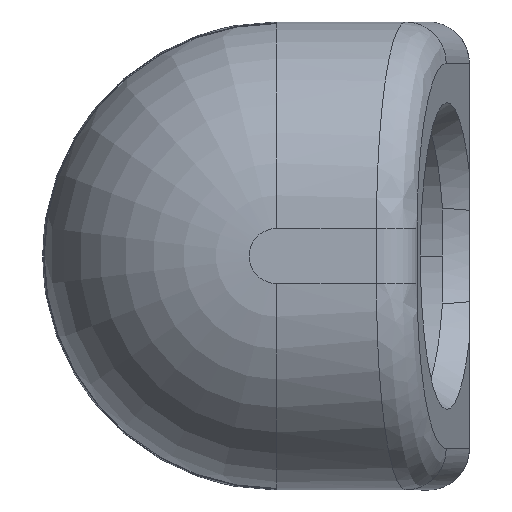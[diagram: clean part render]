
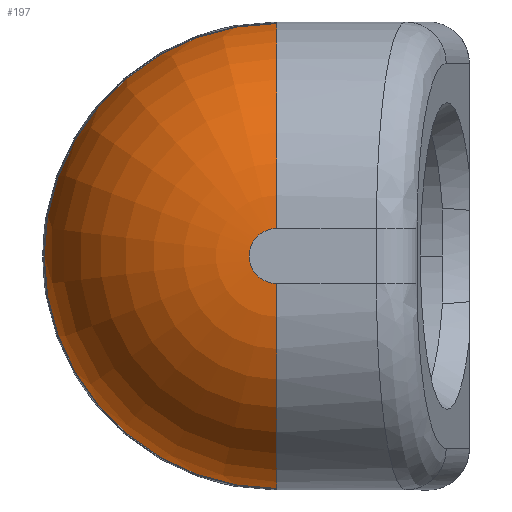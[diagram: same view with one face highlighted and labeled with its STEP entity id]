
A CAD part, left-side view. The second image highlights one B-rep face of the part: STEP entity #197.
In plain terms, the highlighted toroidal (fillet/blend) face has major radius 1 mm and minor radius 7.5 mm.
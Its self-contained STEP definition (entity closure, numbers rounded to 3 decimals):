
#6 = DIRECTION ( 'NONE',  ( 0., 0., 1. ) ) ;
#22 = EDGE_CURVE ( 'NONE', #92, #568, #971, .T. ) ;
#71 = ORIENTED_EDGE ( 'NONE', *, *, #722, .F. ) ;
#92 = VERTEX_POINT ( 'NONE', #1188 ) ;
#145 = DIRECTION ( 'NONE',  ( 0., 0., 1. ) ) ;
#183 = CARTESIAN_POINT ( 'NONE',  ( -1., 0., 0. ) ) ;
#197 = ADVANCED_FACE ( 'NONE', ( #252 ), #833, .T. ) ;
#252 = FACE_OUTER_BOUND ( 'NONE', #1117, .T. ) ;
#300 = CARTESIAN_POINT ( 'NONE',  ( -1., 0., -1. ) ) ;
#311 = EDGE_CURVE ( 'NONE', #1083, #92, #757, .T. ) ;
#320 = AXIS2_PLACEMENT_3D ( 'NONE', #1270, #821, #145 ) ;
#424 = ORIENTED_EDGE ( 'NONE', *, *, #22, .T. ) ;
#443 = CARTESIAN_POINT ( 'NONE',  ( -1.903, 0., 8.445 ) ) ;
#449 = CARTESIAN_POINT ( 'NONE',  ( -1., 0., 1. ) ) ;
#467 = CIRCLE ( 'NONE', #766, 7.5 ) ;
#550 = DIRECTION ( 'NONE',  ( -1., 0., 0. ) ) ;
#568 = VERTEX_POINT ( 'NONE', #648 ) ;
#648 = CARTESIAN_POINT ( 'NONE',  ( -8.5, 0., -1. ) ) ;
#695 = VERTEX_POINT ( 'NONE', #1344 ) ;
#722 = EDGE_CURVE ( 'NONE', #1083, #695, #467, .T. ) ;
#757 = CIRCLE ( 'NONE', #320, 8.445 ) ;
#766 = AXIS2_PLACEMENT_3D ( 'NONE', #449, #1463, #550 ) ;
#773 = DIRECTION ( 'NONE',  ( -1., 0., 0. ) ) ;
#781 = DIRECTION ( 'NONE',  ( 0., 0., 1. ) ) ;
#800 = CARTESIAN_POINT ( 'NONE',  ( -8.5, 0., 0. ) ) ;
#821 = DIRECTION ( 'NONE',  ( -1., 0., 0. ) ) ;
#833 = TOROIDAL_SURFACE ( 'NONE', #861, 1., 7.5 ) ;
#861 = AXIS2_PLACEMENT_3D ( 'NONE', #183, #773, #781 ) ;
#904 = DIRECTION ( 'NONE',  ( 0., 1., 0. ) ) ;
#932 = AXIS2_PLACEMENT_3D ( 'NONE', #300, #904, #1482 ) ;
#971 = CIRCLE ( 'NONE', #932, 7.5 ) ;
#1045 = ORIENTED_EDGE ( 'NONE', *, *, #311, .T. ) ;
#1083 = VERTEX_POINT ( 'NONE', #443 ) ;
#1117 = EDGE_LOOP ( 'NONE', ( #1373, #71, #1045, #424 ) ) ;
#1139 = EDGE_CURVE ( 'NONE', #695, #568, #1222, .T. ) ;
#1188 = CARTESIAN_POINT ( 'NONE',  ( -1.903, 0., -8.445 ) ) ;
#1222 = CIRCLE ( 'NONE', #1435, 1. ) ;
#1270 = CARTESIAN_POINT ( 'NONE',  ( -1.903, 0., 0. ) ) ;
#1344 = CARTESIAN_POINT ( 'NONE',  ( -8.5, 0., 1. ) ) ;
#1373 = ORIENTED_EDGE ( 'NONE', *, *, #1139, .F. ) ;
#1435 = AXIS2_PLACEMENT_3D ( 'NONE', #800, #1481, #6 ) ;
#1463 = DIRECTION ( 'NONE',  ( 0., -1., 0. ) ) ;
#1481 = DIRECTION ( 'NONE',  ( -1., 0., 0. ) ) ;
#1482 = DIRECTION ( 'NONE',  ( -1., 0., 0. ) ) ;
